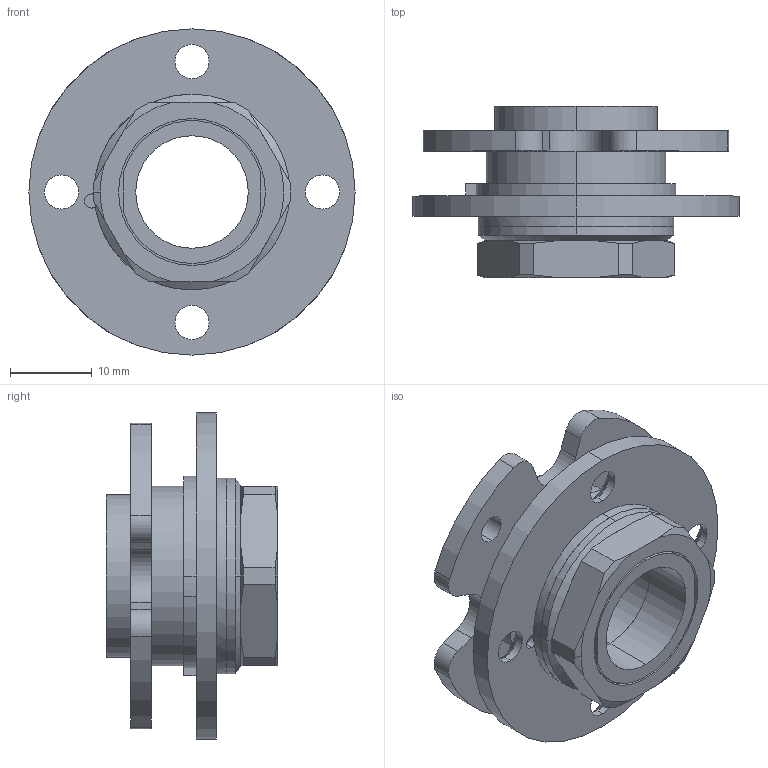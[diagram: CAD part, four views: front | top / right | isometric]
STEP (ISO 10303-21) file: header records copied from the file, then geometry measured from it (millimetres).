
FILE_DESCRIPTION (( 'STEP AP203' ), '1' );
FILE_NAME ('XG11-120-90°.STEP', '2025-06-17T09:18:31', ( '微软用户' ), ( '微软中国' ), 'SwSTEP 2.0', 'SolidWorks 2024', '' );
FILE_SCHEMA (( 'CONFIG_CONTROL_DESIGN' ));
Length unit declared in the file: millimetre
Products named in the file (1): XG11-120-90°
Bounding box: 40 x 21 x 40 mm (x, y, z)
Volume: 8614.1 mm3; surface area: 6995.6 mm2
Topology: 3 solids, 3 shells, 132 faces, 341 edges, 222 vertices
Faces by surface type: cylinder 61, plane 47, cone 24
Entity records: 4226 total; most frequent: CARTESIAN_POINT 810, DIRECTION 727, ORIENTED_EDGE 682, EDGE_CURVE 341, AXIS2_PLACEMENT_3D 291, VERTEX_POINT 222, EDGE_LOOP 159, CIRCLE 158
